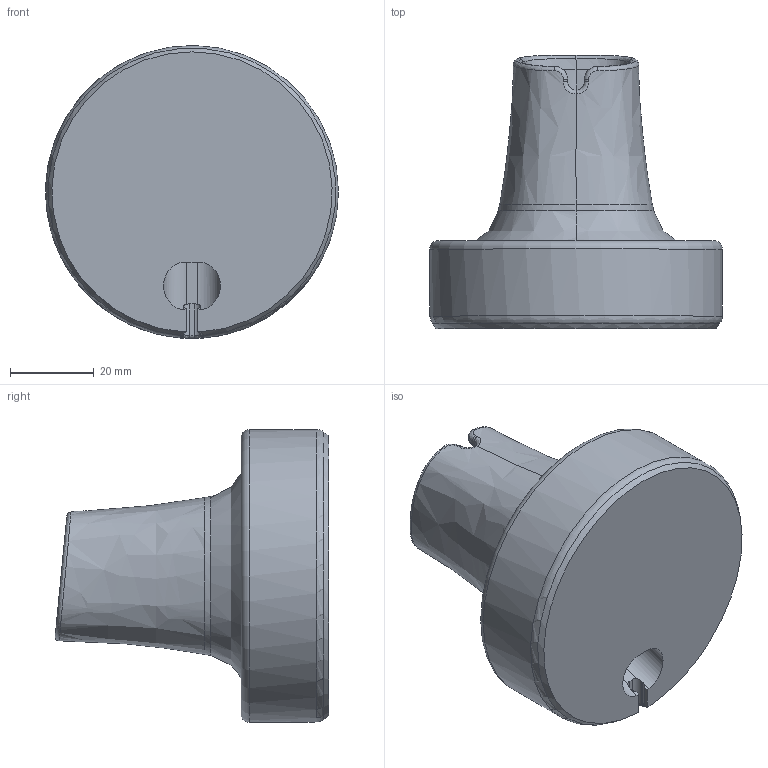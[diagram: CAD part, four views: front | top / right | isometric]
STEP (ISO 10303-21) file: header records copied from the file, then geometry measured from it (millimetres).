
FILE_DESCRIPTION(/* description */ (''),/* implementation_level */ '2;1');
FILE_NAME(/* name */ 'Onebladestand_V2.step',/* time_stamp */ '2025-12-21T14:44:58+01:00',/* author */ (''),/* organization */ (''),/* preprocessor_version */ 'ST-DEVELOPER v20.1',/* originating_system */ 'Autodesk Translation Framework v14.21.0.0',/* authorisation */ '');
FILE_SCHEMA (('AUTOMOTIVE_DESIGN { 1 0 10303 214 3 1 1 }'));
Length unit declared in the file: millimetre
Products named in the file (1): Onebladestand_V2
Bounding box: 70 x 65.43 x 70 mm (x, y, z)
Volume: 102306.9 mm3; surface area: 20472.5 mm2
Topology: 1 solids, 1 shells, 184 faces, 453 edges, 260 vertices
Faces by surface type: bspline 106, cylinder 37, plane 25, torus 15, cone 1
Full cylindrical faces by diameter (mm): 70 x1
Entity records: 11311 total; most frequent: CARTESIAN_POINT 7669, ORIENTED_EDGE 886, DIRECTION 533, EDGE_CURVE 443, VERTEX_POINT 260, AXIS2_PLACEMENT_3D 229, B_SPLINE_CURVE_WITH_KNOTS 218, EDGE_LOOP 185
